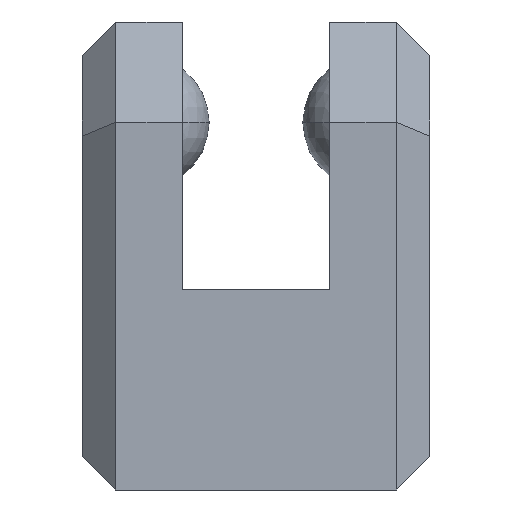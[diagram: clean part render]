
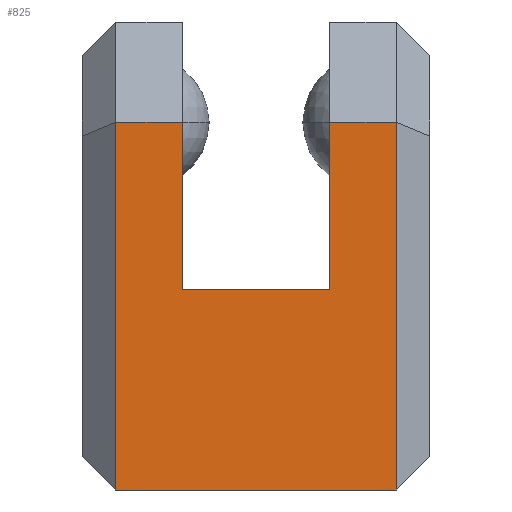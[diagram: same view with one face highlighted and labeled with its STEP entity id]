
A CAD part, left-side view. The second image highlights one B-rep face of the part: STEP entity #825.
In plain terms, the highlighted planar face has unit normal (-1, 0, 0).
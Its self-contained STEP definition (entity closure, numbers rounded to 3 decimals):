
#20 = VERTEX_POINT ( 'NONE', #772 ) ;
#54 = VERTEX_POINT ( 'NONE', #266 ) ;
#63 = CARTESIAN_POINT ( 'NONE',  ( -2., -1.1, 3. ) ) ;
#69 = ORIENTED_EDGE ( 'NONE', *, *, #1054, .T. ) ;
#76 = CARTESIAN_POINT ( 'NONE',  ( -2., -1.1, 5.5 ) ) ;
#90 = CARTESIAN_POINT ( 'NONE',  ( -2., 2.6, 3. ) ) ;
#99 = CARTESIAN_POINT ( 'NONE',  ( -2., 2.1, 0. ) ) ;
#110 = DIRECTION ( 'NONE',  ( 0., -1., 0. ) ) ;
#177 = EDGE_CURVE ( 'NONE', #54, #529, #781, .T. ) ;
#210 = CARTESIAN_POINT ( 'NONE',  ( -2., 2.6, 0. ) ) ;
#214 = ORIENTED_EDGE ( 'NONE', *, *, #633, .F. ) ;
#222 = EDGE_LOOP ( 'NONE', ( #700, #673, #593, #214, #962, #966, #527, #69 ) ) ;
#266 = CARTESIAN_POINT ( 'NONE',  ( -2., 1.1, 3. ) ) ;
#286 = LINE ( 'NONE', #210, #468 ) ;
#321 = LINE ( 'NONE', #325, #901 ) ;
#323 = LINE ( 'NONE', #573, #605 ) ;
#325 = CARTESIAN_POINT ( 'NONE',  ( -2., 2.6, 5.5 ) ) ;
#326 = EDGE_CURVE ( 'NONE', #444, #20, #321, .T. ) ;
#366 = VERTEX_POINT ( 'NONE', #99 ) ;
#381 = CARTESIAN_POINT ( 'NONE',  ( -2., 1.1, 5.5 ) ) ;
#392 = VECTOR ( 'NONE', #1053, 1000. ) ;
#406 = CARTESIAN_POINT ( 'NONE',  ( -2., 2.1, 3. ) ) ;
#414 = DIRECTION ( 'NONE',  ( 0., 0., 1. ) ) ;
#418 = VECTOR ( 'NONE', #414, 1000. ) ;
#426 = DIRECTION ( 'NONE',  ( 0., 1., 0. ) ) ;
#429 = DIRECTION ( 'NONE',  ( 1., 0., 0. ) ) ;
#440 = EDGE_CURVE ( 'NONE', #529, #787, #509, .T. ) ;
#444 = VERTEX_POINT ( 'NONE', #751 ) ;
#468 = VECTOR ( 'NONE', #1041, 1000. ) ;
#485 = DIRECTION ( 'NONE',  ( 0., 0., 1. ) ) ;
#489 = LINE ( 'NONE', #406, #649 ) ;
#505 = VERTEX_POINT ( 'NONE', #1035 ) ;
#509 = LINE ( 'NONE', #519, #940 ) ;
#519 = CARTESIAN_POINT ( 'NONE',  ( -2., 2.6, 5.5 ) ) ;
#527 = ORIENTED_EDGE ( 'NONE', *, *, #440, .T. ) ;
#529 = VERTEX_POINT ( 'NONE', #615 ) ;
#573 = CARTESIAN_POINT ( 'NONE',  ( -2., -2.1, 3. ) ) ;
#593 = ORIENTED_EDGE ( 'NONE', *, *, #326, .T. ) ;
#605 = VECTOR ( 'NONE', #485, 1000. ) ;
#615 = CARTESIAN_POINT ( 'NONE',  ( -2., 1.1, 5.5 ) ) ;
#616 = EDGE_CURVE ( 'NONE', #505, #444, #323, .T. ) ;
#633 = EDGE_CURVE ( 'NONE', #978, #20, #715, .T. ) ;
#637 = AXIS2_PLACEMENT_3D ( 'NONE', #90, #429, #757 ) ;
#649 = VECTOR ( 'NONE', #719, 1000. ) ;
#657 = DIRECTION ( 'NONE',  ( 0., 1., 0. ) ) ;
#673 = ORIENTED_EDGE ( 'NONE', *, *, #616, .T. ) ;
#686 = FACE_OUTER_BOUND ( 'NONE', #222, .T. ) ;
#700 = ORIENTED_EDGE ( 'NONE', *, *, #853, .T. ) ;
#715 = LINE ( 'NONE', #76, #418 ) ;
#719 = DIRECTION ( 'NONE',  ( 0., 0., -1. ) ) ;
#751 = CARTESIAN_POINT ( 'NONE',  ( -2., -2.1, 5.5 ) ) ;
#757 = DIRECTION ( 'NONE',  ( 0., 1., 0. ) ) ;
#772 = CARTESIAN_POINT ( 'NONE',  ( -2., -1.1, 5.5 ) ) ;
#781 = LINE ( 'NONE', #381, #392 ) ;
#784 = VECTOR ( 'NONE', #110, 1000. ) ;
#787 = VERTEX_POINT ( 'NONE', #845 ) ;
#825 = ADVANCED_FACE ( 'NONE', ( #686 ), #840, .F. ) ;
#840 = PLANE ( 'NONE',  #637 ) ;
#845 = CARTESIAN_POINT ( 'NONE',  ( -2., 2.1, 5.5 ) ) ;
#853 = EDGE_CURVE ( 'NONE', #366, #505, #286, .T. ) ;
#901 = VECTOR ( 'NONE', #657, 1000. ) ;
#938 = EDGE_CURVE ( 'NONE', #54, #978, #950, .T. ) ;
#940 = VECTOR ( 'NONE', #426, 1000. ) ;
#944 = CARTESIAN_POINT ( 'NONE',  ( -2., 1.1, 3. ) ) ;
#950 = LINE ( 'NONE', #944, #784 ) ;
#962 = ORIENTED_EDGE ( 'NONE', *, *, #938, .F. ) ;
#966 = ORIENTED_EDGE ( 'NONE', *, *, #177, .T. ) ;
#978 = VERTEX_POINT ( 'NONE', #63 ) ;
#1035 = CARTESIAN_POINT ( 'NONE',  ( -2., -2.1, 0. ) ) ;
#1041 = DIRECTION ( 'NONE',  ( 0., -1., 0. ) ) ;
#1053 = DIRECTION ( 'NONE',  ( 0., 0., 1. ) ) ;
#1054 = EDGE_CURVE ( 'NONE', #787, #366, #489, .T. ) ;
